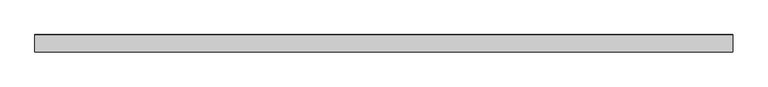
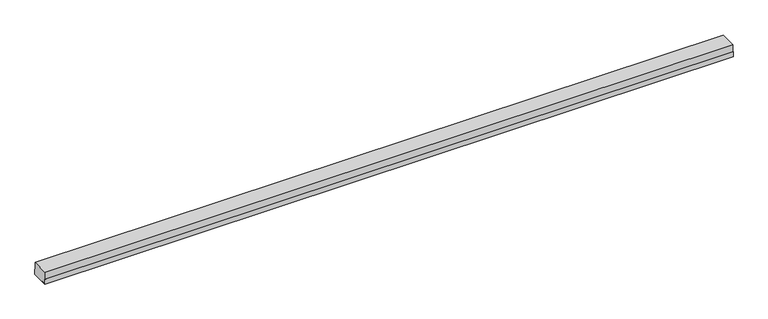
"""IFC4 building model written with IfcOpenShell, lengths in millimetres: proxy geometry, durlum_OMEGA_100 : durlum_OMEGA_100."""

from ifc_helpers import new_model, si_unit, origin, origin_with_axes, place, context, project, spatial, polyline, outline, extrude, faceted_brep, source, transform, mapped, element, save


def generic_models_25bc2594(model_context):
    return source(origin(), model_context, "Body", "SolidModel", [
        extrude(outline(polyline([(1998.75, 48.75), (1998.75, -48.75), (-1998.75, -48.75), (-1998.75, 48.75), (1998.75, 48.75)])), origin_with_axes(), (0.0, 0.0, 1.0), 1.25),
        faceted_brep([(2000.0, 50.0, 29.0), (2000.0, 49.0, 29.0), (2000.0, 49.0, 73.0), (2000.0, -49.0, 73.0), (2000.0, -49.0, 29.0), (2000.0, -50.0, 29.0), (2000.0, -50.0, 0.0), (2000.0, 50.0, 0.0), (-2000.0, 50.0, 29.0), (-2000.0, 50.0, 0.0), (-2000.0, -50.0, 0.0), (-2000.0, -50.0, 29.0), (-2000.0, -49.0, 29.0), (-2000.0, -49.0, 73.0), (-2000.0, 49.0, 73.0), (-2000.0, 49.0, 29.0), (1998.75, 48.75, 0.0), (-1998.75, 48.75, 0.0), (-1998.75, -48.75, 0.0), (1998.75, -48.75, 0.0), (1998.75, 48.75, 5.5310709), (1998.75, -48.75, 5.5310709), (-1998.75, -48.75, 5.5310709), (-1998.75, 48.75, 5.5310709)], [[[0, 1, 2, 3, 4, 5, 6, 7]], [[8, 9, 10, 11, 12, 13, 14, 15]], [[1, 0, 8, 15]], [[2, 1, 15, 14]], [[3, 2, 14, 13]], [[4, 3, 13, 12]], [[5, 4, 12, 11]], [[6, 5, 11, 10]], [[7, 6, 10, 9], [16, 17, 18, 19]], [[0, 7, 9, 8]], [[20, 21, 22, 23]], [[20, 23, 17, 16]], [[23, 22, 18, 17]], [[22, 21, 19, 18]], [[21, 20, 16, 19]]]),
    ])


if __name__ == "__main__":
    model = new_model("IFC4")
    model_context = context("Model", 3, world=origin())
    ifc_project = project(units=[si_unit("LENGTHUNIT", "METRE", prefix="MILLI")], contexts=[model_context])
    site = spatial("IfcSite", under=ifc_project)
    building = spatial("IfcBuilding", under=site)
    placement = place(None, origin())
    generic_models_shape = generic_models_25bc2594(model_context)
    element("IfcBuildingElementProxy", 1, Name="durlum_OMEGA_100 : durlum_OMEGA_100", ObjectType="durlum_OMEGA_100 : durlum_OMEGA_100", at=placement, inside=building, context=model_context, shape_type="MappedRepresentation", body=[
        mapped(generic_models_shape, transform((0.0, 0.0, 0.0), x_axis=(1.0, 0.0, 0.0), y_axis=(0.0, 1.0, 0.0), z_axis=(0.0, 0.0, 1.0))),
    ])
    save(model, "model.ifc")
